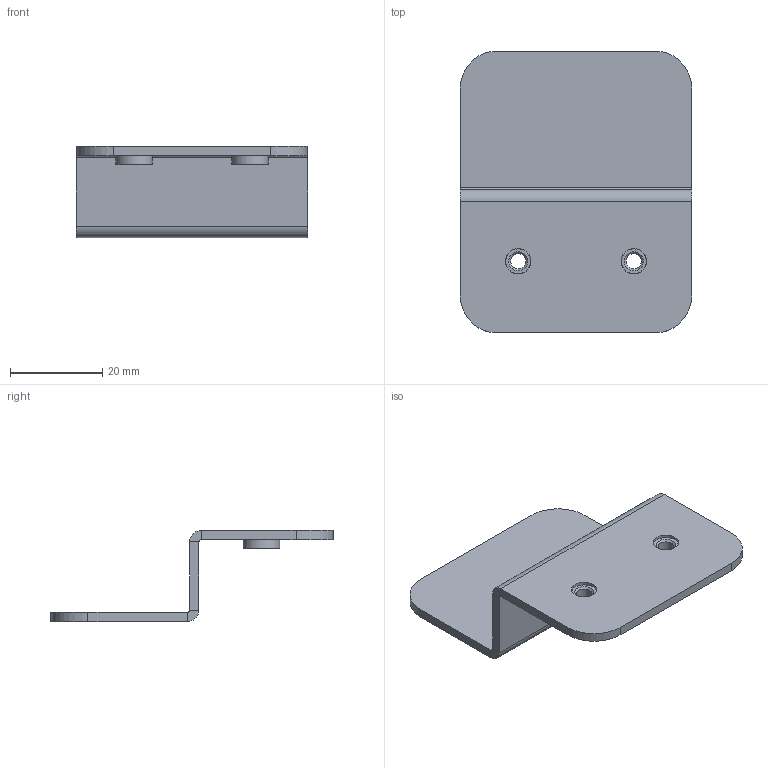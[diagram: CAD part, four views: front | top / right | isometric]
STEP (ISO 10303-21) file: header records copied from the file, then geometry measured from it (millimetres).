
FILE_DESCRIPTION (( 'STEP AP214' ), '1' );
FILE_NAME ('MONO_038-a302_01.STEP', '2025-09-23T04:54:50', ( '' ), ( '' ), 'SwSTEP 2.0', 'SolidWorks 2024', '' );
FILE_SCHEMA (( 'AUTOMOTIVE_DESIGN' ));
Length unit declared in the file: millimetre
Products named in the file (3): MONO_038-a302_01; MONO_038-p303; M4 x -2 Self Clinch Nut (TR00030019-100)_M4X-2
Assembly tree (3 placements, depth 2):
  MONO_038-a302_01
    MONO_038-p303
    M4 x -2 Self Clinch Nut (TR00030019-100)_M4X-2  x2
Bounding box: 50 x 61 x 19.75 mm (x, y, z)
Volume: 7740.7 mm3; surface area: 8470.3 mm2
Topology: 3 solids, 3 shells, 276 faces, 774 edges, 508 vertices
Faces by surface type: plane 138, cylinder 130, cone 8
Full cylindrical faces by diameter (mm): 3.3 x2, 4.95 x2, 5.38 x2, 5.5 x2, 7.9 x2
Entity records: 4894 total; most frequent: DIRECTION 866, CARTESIAN_POINT 836, ORIENTED_EDGE 814, EDGE_CURVE 407, AXIS2_PLACEMENT_3D 301, VERTEX_POINT 271, LINE 264, VECTOR 264
